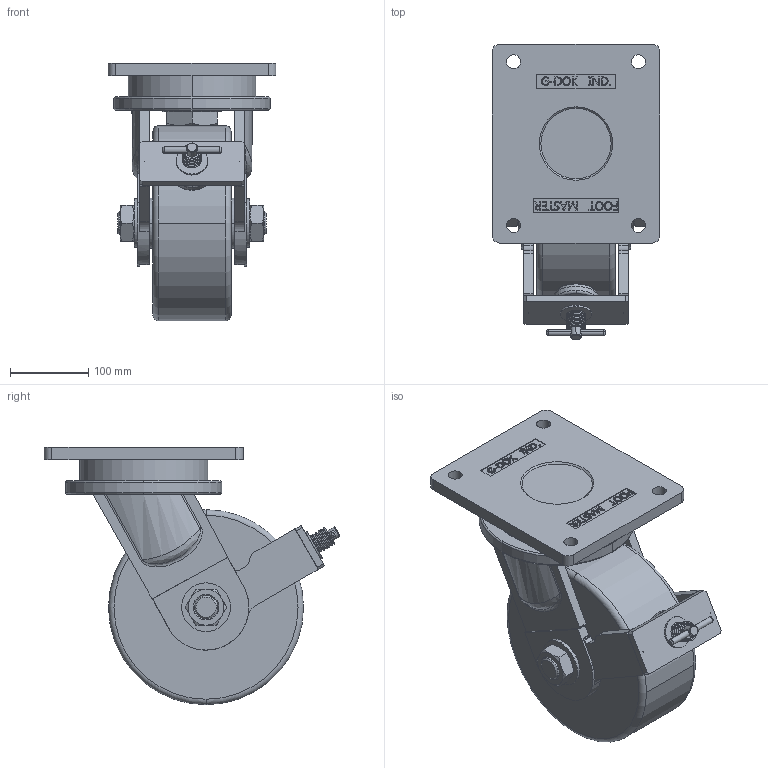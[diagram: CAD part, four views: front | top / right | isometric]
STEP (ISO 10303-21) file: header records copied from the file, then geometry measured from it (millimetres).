
FILE_DESCRIPTION((''),'2;1');
FILE_NAME('UGXT-250 B SF-3D-IN.stp','2011-11-22T13:16:58',(''),(''),'Mechanical Desktop 2009','Mechanical Desktop 2009',', , ');
FILE_SCHEMA(('CONFIG_CONTROL_DESIGN'));
Length unit declared in the file: millimetre
Products named in the file (15): UGXT-250 B SF-3D-IN; UGXT-250 B SF-3D; UGXT-BRAKE SUB ASSY; GXT-BRAKE-BRACKET; GXT-BRAKE-BOLT-M20; GXT-BRAKE-HANDLE; GXT-BRAKE-PAD-D58; D58辨-堅鼠檣賦お; D58辨-PAD; 睡ヶ1; 3D-D58辨-堅鼠; M20-3謙-NUT; WASHER-D27XD13X1.5T-S130; WASHER-D40XD21X2.6T-PH MCD; GXT-BRAKE-SPRING
Assembly tree (14 placements, depth 5):
  UGXT-250 B SF-3D-IN
    UGXT-250 B SF-3D
    UGXT-BRAKE SUB ASSY
      GXT-BRAKE-BRACKET
      GXT-BRAKE-BOLT-M20
      GXT-BRAKE-HANDLE
      GXT-BRAKE-PAD-D58
        D58辨-堅鼠檣賦お
        D58辨-PAD
          睡ヶ1
        3D-D58辨-堅鼠
      M20-3謙-NUT
      WASHER-D27XD13X1.5T-S130
      WASHER-D40XD21X2.6T-PH MCD
      GXT-BRAKE-SPRING
Bounding box: 215 x 379.03 x 330 mm (x, y, z)
Volume: 7901482.3 mm3; surface area: 538261.1 mm2
Topology: 13 solids, 19 shells, 718 faces, 1821 edges, 1195 vertices
Faces by surface type: plane 335, bspline 184, cylinder 125, cone 48, torus 26
Entity records: 26357 total; most frequent: CARTESIAN_POINT 9510, ORIENTED_EDGE 3642, DIRECTION 3045, EDGE_CURVE 1821, VERTEX_POINT 1195, VECTOR 1061, LINE 1061, AXIS2_PLACEMENT_3D 992
